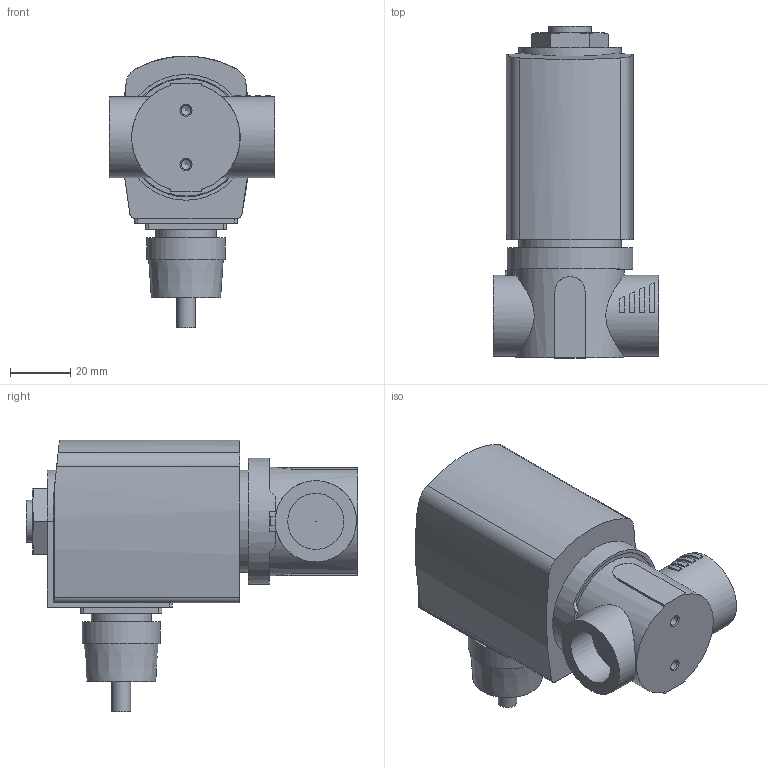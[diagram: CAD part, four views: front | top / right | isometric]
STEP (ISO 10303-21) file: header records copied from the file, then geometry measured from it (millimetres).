
FILE_DESCRIPTION(/* description */ ('STEP AP214'),/* implementation_level */ '2;1');
FILE_NAME(/* name */ '6240-380818-2_2-way_solenoid_valve__pilot-controlled',/* time_stamp */ '2024-05-10T11:12:20+02:00',/* author */ ('License CC BY-ND 4.0'),/* organization */ ('CADENAS'),/* preprocessor_version */ 'ST-DEVELOPER v19.3',/* originating_system */ 'PARTsolutions',/* authorisation */ ' ');
FILE_SCHEMA (('AUTOMOTIVE_DESIGN {1 0 10303 214 3 1 1}'));
Length unit declared in the file: millimetre
Products named in the file (3): 6240-380818-2/2-way solenoid valve, pilot-controlled; 6240-Gehaeuse-2/2-Wege-Magnetventil, vorgesteuert StandardG1/212VA; AC10ex-42ATEXKabelPlan-Coil
Assembly tree (2 placements, depth 2):
  6240-380818-2/2-way solenoid valve, pilot-controlled
    6240-Gehaeuse-2/2-Wege-Magnetventil, vorgesteuert StandardG1/212VA
    AC10ex-42ATEXKabelPlan-Coil
Bounding box: 55 x 110.2 x 90.3 mm (x, y, z)
Volume: 197451.2 mm3; surface area: 30668.1 mm2
Topology: 2 solids, 2 shells, 120 faces, 285 edges, 187 vertices
Faces by surface type: plane 70, cylinder 38, cone 12
Full cylindrical faces by diameter (mm): 0.2 x1, 3.242 x2, 6.2 x1, 14 x1, 18.631 x2, 20 x1, 26 x1, 27 x2, 34 x1, 36 x1, 39 x1, 39.5 x1, 41.8 x1
Entity records: 4281 total; most frequent: CARTESIAN_POINT 669, DIRECTION 593, ORIENTED_EDGE 506, EDGE_CURVE 253, AXIS2_PLACEMENT_3D 237, VERTEX_POINT 179, FACE_BOUND 164, EDGE_LOOP 162
